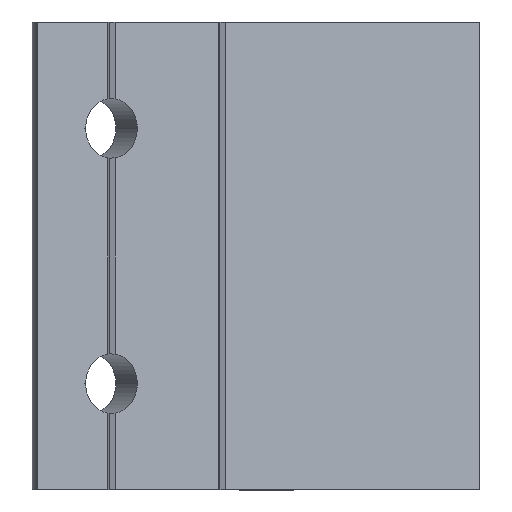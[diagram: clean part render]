
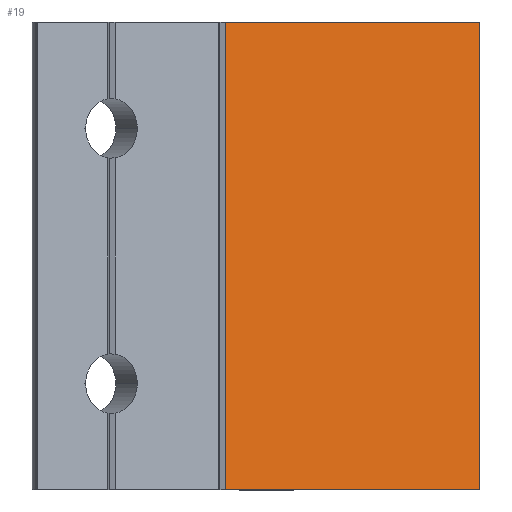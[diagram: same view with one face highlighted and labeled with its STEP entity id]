
A CAD part, left-side view. The second image highlights one B-rep face of the part: STEP entity #19.
In plain terms, the highlighted planar face has unit normal (-0.866, -0.5, 0).
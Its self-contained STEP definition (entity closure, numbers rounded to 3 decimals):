
#19 = ADVANCED_FACE ( 'NONE', ( #1333 ), #1348, .T. ) ;
#44 = ORIENTED_EDGE ( 'NONE', *, *, #159, .F. ) ;
#77 = EDGE_LOOP ( 'NONE', ( #1864, #1249, #44, #1499 ) ) ;
#159 = EDGE_CURVE ( 'NONE', #1840, #2174, #283, .T. ) ;
#202 = DIRECTION ( 'NONE',  ( 0.5, -0.866, 0. ) ) ;
#275 = LINE ( 'NONE', #480, #810 ) ;
#283 = LINE ( 'NONE', #2143, #1888 ) ;
#318 = CARTESIAN_POINT ( 'NONE',  ( 0., 0., 27.5 ) ) ;
#480 = CARTESIAN_POINT ( 'NONE',  ( -17.25, 29.878, 0. ) ) ;
#531 = LINE ( 'NONE', #1388, #1544 ) ;
#578 = LINE ( 'NONE', #926, #1920 ) ;
#810 = VECTOR ( 'NONE', #1119, 1000. ) ;
#821 = CARTESIAN_POINT ( 'NONE',  ( -17.25, 29.878, -27.5 ) ) ;
#830 = DIRECTION ( 'NONE',  ( 0.5, -0.866, 0. ) ) ;
#891 = CARTESIAN_POINT ( 'NONE',  ( -17.25, 29.878, 27.5 ) ) ;
#926 = CARTESIAN_POINT ( 'NONE',  ( 0., 0., 27.5 ) ) ;
#935 = VERTEX_POINT ( 'NONE', #821 ) ;
#937 = EDGE_CURVE ( 'NONE', #1603, #935, #275, .T. ) ;
#1001 = DIRECTION ( 'NONE',  ( -0.866, -0.5, 0. ) ) ;
#1119 = DIRECTION ( 'NONE',  ( 0., 0., -1. ) ) ;
#1249 = ORIENTED_EDGE ( 'NONE', *, *, #1991, .T. ) ;
#1333 = FACE_OUTER_BOUND ( 'NONE', #77, .T. ) ;
#1348 = PLANE ( 'NONE',  #1954 ) ;
#1354 = EDGE_CURVE ( 'NONE', #1840, #1603, #578, .T. ) ;
#1388 = CARTESIAN_POINT ( 'NONE',  ( 0., 0., -27.5 ) ) ;
#1499 = ORIENTED_EDGE ( 'NONE', *, *, #1354, .T. ) ;
#1544 = VECTOR ( 'NONE', #202, 1000. ) ;
#1603 = VERTEX_POINT ( 'NONE', #891 ) ;
#1615 = DIRECTION ( 'NONE',  ( -0.5, 0.866, 0. ) ) ;
#1834 = DIRECTION ( 'NONE',  ( 0., 0., -1. ) ) ;
#1840 = VERTEX_POINT ( 'NONE', #318 ) ;
#1864 = ORIENTED_EDGE ( 'NONE', *, *, #937, .T. ) ;
#1888 = VECTOR ( 'NONE', #1834, 1000. ) ;
#1920 = VECTOR ( 'NONE', #1615, 1000. ) ;
#1954 = AXIS2_PLACEMENT_3D ( 'NONE', #2023, #1001, #830 ) ;
#1957 = CARTESIAN_POINT ( 'NONE',  ( 0., 0., -27.5 ) ) ;
#1991 = EDGE_CURVE ( 'NONE', #935, #2174, #531, .T. ) ;
#2023 = CARTESIAN_POINT ( 'NONE',  ( 0., 0., 0. ) ) ;
#2143 = CARTESIAN_POINT ( 'NONE',  ( 0., 0., 0. ) ) ;
#2174 = VERTEX_POINT ( 'NONE', #1957 ) ;
